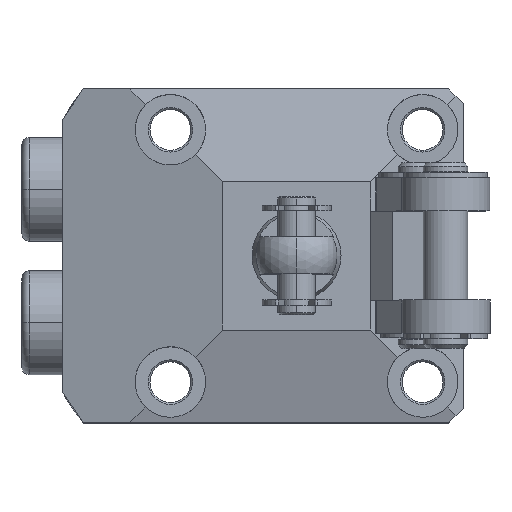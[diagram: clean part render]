
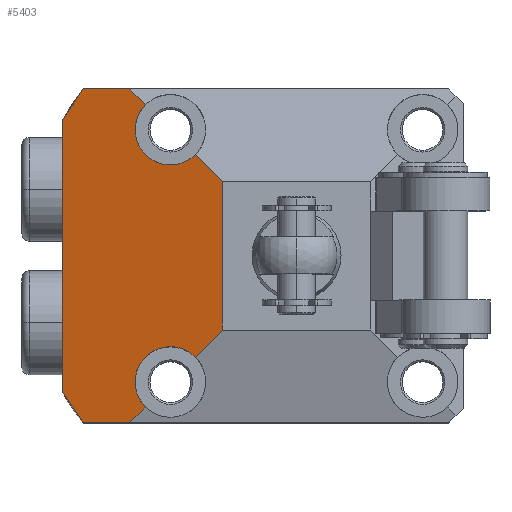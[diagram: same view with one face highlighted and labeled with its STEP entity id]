
A CAD part, top view. The second image highlights one B-rep face of the part: STEP entity #5403.
In plain terms, the highlighted planar face has unit normal (-0.259, 0, 0.966).
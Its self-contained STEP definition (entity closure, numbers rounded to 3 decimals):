
#83 =( BOUNDED_CURVE ( )  B_SPLINE_CURVE ( 3, ( #1738, #3707, #4362, #471 ),
 .UNSPECIFIED., .F., .F. ) 
 B_SPLINE_CURVE_WITH_KNOTS ( ( 4, 4 ),
 ( 0.785, 3.142 ),
 .UNSPECIFIED. ) 
 CURVE ( )  GEOMETRIC_REPRESENTATION_ITEM ( )  RATIONAL_B_SPLINE_CURVE ( ( 1., 0.588, 0.588, 1. ) ) 
 REPRESENTATION_ITEM ( '' )  );
#85 = CARTESIAN_POINT ( 'NONE',  ( -21.75, -12.028, 52.852 ) ) ;
#273 = CARTESIAN_POINT ( 'NONE',  ( -31.5, 22.501, 50.239 ) ) ;
#308 = DIRECTION ( 'NONE',  ( -0.966, 0., -0.259 ) ) ;
#336 = CARTESIAN_POINT ( 'NONE',  ( -20.359, 20.359, 53.224 ) ) ;
#437 = ORIENTED_EDGE ( 'NONE', *, *, #2420, .T. ) ;
#442 = VECTOR ( 'NONE', #3312, 1000. ) ;
#471 = CARTESIAN_POINT ( 'NONE',  ( -21.75, 17., 52.852 ) ) ;
#555 = VERTEX_POINT ( 'NONE', #3800 ) ;
#603 = VECTOR ( 'NONE', #2902, 1000. ) ;
#625 = VERTEX_POINT ( 'NONE', #6447 ) ;
#651 = LINE ( 'NONE', #273, #7120 ) ;
#654 = VERTEX_POINT ( 'NONE', #5197 ) ;
#694 = EDGE_CURVE ( 'NONE', #1173, #6821, #1224, .T. ) ;
#795 = EDGE_CURVE ( 'NONE', #2371, #1443, #5765, .T. ) ;
#814 = CARTESIAN_POINT ( 'NONE',  ( -21.75, 18.277, 52.852 ) ) ;
#1173 = VERTEX_POINT ( 'NONE', #2589 ) ;
#1183 = CARTESIAN_POINT ( 'NONE',  ( -28.74, 22.5, 50.979 ) ) ;
#1224 = LINE ( 'NONE', #1333, #442 ) ;
#1333 = CARTESIAN_POINT ( 'NONE',  ( -10., 22.5, 56. ) ) ;
#1353 = CARTESIAN_POINT ( 'NONE',  ( -20.359, -20.359, 53.224 ) ) ;
#1439 = CARTESIAN_POINT ( 'NONE',  ( -21.75, 17., 52.852 ) ) ;
#1443 = VERTEX_POINT ( 'NONE', #336 ) ;
#1521 = CARTESIAN_POINT ( 'NONE',  ( -10., -10., 56. ) ) ;
#1545 = ORIENTED_EDGE ( 'NONE', *, *, #1822, .T. ) ;
#1654 = ORIENTED_EDGE ( 'NONE', *, *, #795, .T. ) ;
#1700 = LINE ( 'NONE', #5907, #6457 ) ;
#1738 = CARTESIAN_POINT ( 'NONE',  ( -13.641, 13.641, 55.024 ) ) ;
#1822 = EDGE_CURVE ( 'NONE', #7681, #654, #2121, .T. ) ;
#1944 = CARTESIAN_POINT ( 'NONE',  ( -28.74, -22.5, 50.979 ) ) ;
#2023 = DIRECTION ( 'NONE',  ( -0.695, 0.695, -0.186 ) ) ;
#2025 = DIRECTION ( 'NONE',  ( -0.695, 0.695, -0.186 ) ) ;
#2034 = CARTESIAN_POINT ( 'NONE',  ( -17.157, -10.126, 54.082 ) ) ;
#2080 = CARTESIAN_POINT ( 'NONE',  ( -16.034, 16.034, 54.383 ) ) ;
#2121 =( BOUNDED_CURVE ( )  B_SPLINE_CURVE ( 3, ( #6494, #4608, #6544, #2667 ),
 .UNSPECIFIED., .F., .F. ) 
 B_SPLINE_CURVE_WITH_KNOTS ( ( 4, 4 ),
 ( 2.356, 3.142 ),
 .UNSPECIFIED. ) 
 CURVE ( )  GEOMETRIC_REPRESENTATION_ITEM ( )  RATIONAL_B_SPLINE_CURVE ( ( 1., 0.949, 0.949, 1. ) ) 
 REPRESENTATION_ITEM ( '' )  );
#2195 = ORIENTED_EDGE ( 'NONE', *, *, #6467, .T. ) ;
#2371 = VERTEX_POINT ( 'NONE', #3921 ) ;
#2420 = EDGE_CURVE ( 'NONE', #654, #555, #4521, .T. ) ;
#2461 = ORIENTED_EDGE ( 'NONE', *, *, #2633, .F. ) ;
#2470 = CARTESIAN_POINT ( 'NONE',  ( -31.5, 18.439, 50.239 ) ) ;
#2589 = CARTESIAN_POINT ( 'NONE',  ( -22.5, 22.5, 52.651 ) ) ;
#2596 = CARTESIAN_POINT ( 'NONE',  ( -30.672, -19.854, 50.461 ) ) ;
#2633 = EDGE_CURVE ( 'NONE', #5573, #7849, #7484, .T. ) ;
#2635 = DIRECTION ( 'NONE',  ( 0.695, 0.695, 0.186 ) ) ;
#2667 = CARTESIAN_POINT ( 'NONE',  ( -21.75, -17., 52.852 ) ) ;
#2844 =( BOUNDED_CURVE ( )  B_SPLINE_CURVE ( 3, ( #2470, #6359, #5098, #1183 ),
 .UNSPECIFIED., .F., .F. ) 
 B_SPLINE_CURVE_WITH_KNOTS ( ( 4, 4 ),
 ( 3.671, 3.806 ),
 .UNSPECIFIED. ) 
 CURVE ( )  GEOMETRIC_REPRESENTATION_ITEM ( )  RATIONAL_B_SPLINE_CURVE ( ( 1., 0.998, 0.998, 1. ) ) 
 REPRESENTATION_ITEM ( '' )  );
#2902 = DIRECTION ( 'NONE',  ( 0., -1., 0. ) ) ;
#2969 = DIRECTION ( 'NONE',  ( 0.695, 0.695, 0.186 ) ) ;
#3101 = VERTEX_POINT ( 'NONE', #5069 ) ;
#3245 = ORIENTED_EDGE ( 'NONE', *, *, #8233, .T. ) ;
#3260 = CARTESIAN_POINT ( 'NONE',  ( -10., -22.5, 56. ) ) ;
#3312 = DIRECTION ( 'NONE',  ( -0.966, 0., -0.259 ) ) ;
#3336 = VECTOR ( 'NONE', #2025, 1000. ) ;
#3547 = PLANE ( 'NONE',  #7048 ) ;
#3707 = CARTESIAN_POINT ( 'NONE',  ( -17.157, 10.126, 54.082 ) ) ;
#3800 = CARTESIAN_POINT ( 'NONE',  ( -13.641, -13.641, 55.024 ) ) ;
#3884 = DIRECTION ( 'NONE',  ( 0.966, 0., 0.259 ) ) ;
#3921 = CARTESIAN_POINT ( 'NONE',  ( -21.75, 17., 52.852 ) ) ;
#4109 = ORIENTED_EDGE ( 'NONE', *, *, #8058, .F. ) ;
#4190 = DIRECTION ( 'NONE',  ( 0.259, 0., -0.966 ) ) ;
#4362 = CARTESIAN_POINT ( 'NONE',  ( -21.75, 12.028, 52.852 ) ) ;
#4521 =( BOUNDED_CURVE ( )  B_SPLINE_CURVE ( 3, ( #4631, #85, #2034, #6565 ),
 .UNSPECIFIED., .F., .F. ) 
 B_SPLINE_CURVE_WITH_KNOTS ( ( 4, 4 ),
 ( 3.142, 5.498 ),
 .UNSPECIFIED. ) 
 CURVE ( )  GEOMETRIC_REPRESENTATION_ITEM ( )  RATIONAL_B_SPLINE_CURVE ( ( 1., 0.588, 0.588, 1. ) ) 
 REPRESENTATION_ITEM ( '' )  );
#4545 = EDGE_CURVE ( 'NONE', #4846, #2371, #83, .T. ) ;
#4608 = CARTESIAN_POINT ( 'NONE',  ( -21.261, -19.456, 52.983 ) ) ;
#4631 = CARTESIAN_POINT ( 'NONE',  ( -21.75, -17., 52.852 ) ) ;
#4743 = CARTESIAN_POINT ( 'NONE',  ( -10., 10., 56. ) ) ;
#4824 = CARTESIAN_POINT ( 'NONE',  ( -10., 22.501, 56. ) ) ;
#4843 = LINE ( 'NONE', #3260, #7848 ) ;
#4846 = VERTEX_POINT ( 'NONE', #7946 ) ;
#4860 = VECTOR ( 'NONE', #2969, 1000. ) ;
#5009 = CARTESIAN_POINT ( 'NONE',  ( -28.74, 22.5, 50.979 ) ) ;
#5069 = CARTESIAN_POINT ( 'NONE',  ( -28.74, -22.5, 50.979 ) ) ;
#5079 = LINE ( 'NONE', #2080, #3336 ) ;
#5098 = CARTESIAN_POINT ( 'NONE',  ( -29.751, 21.209, 50.708 ) ) ;
#5142 = EDGE_CURVE ( 'NONE', #3101, #625, #7863, .T. ) ;
#5197 = CARTESIAN_POINT ( 'NONE',  ( -21.75, -17., 52.852 ) ) ;
#5289 = EDGE_CURVE ( 'NONE', #1443, #1173, #5079, .T. ) ;
#5360 = CARTESIAN_POINT ( 'NONE',  ( -21.261, 19.456, 52.983 ) ) ;
#5403 = ADVANCED_FACE ( 'NONE', ( #7688 ), #3547, .F. ) ;
#5458 = DIRECTION ( 'NONE',  ( 0., -1., 0. ) ) ;
#5573 = VERTEX_POINT ( 'NONE', #4743 ) ;
#5680 = CARTESIAN_POINT ( 'NONE',  ( -22.5, -22.5, 52.651 ) ) ;
#5765 =( BOUNDED_CURVE ( )  B_SPLINE_CURVE ( 3, ( #1439, #814, #5360, #5998 ),
 .UNSPECIFIED., .F., .F. ) 
 B_SPLINE_CURVE_WITH_KNOTS ( ( 4, 4 ),
 ( 3.142, 3.927 ),
 .UNSPECIFIED. ) 
 CURVE ( )  GEOMETRIC_REPRESENTATION_ITEM ( )  RATIONAL_B_SPLINE_CURVE ( ( 1., 0.949, 0.949, 1. ) ) 
 REPRESENTATION_ITEM ( '' )  );
#5907 = CARTESIAN_POINT ( 'NONE',  ( -16.034, 16.034, 54.383 ) ) ;
#5955 = EDGE_CURVE ( 'NONE', #5573, #4846, #1700, .T. ) ;
#5998 = CARTESIAN_POINT ( 'NONE',  ( -20.359, 20.359, 53.224 ) ) ;
#6179 = EDGE_CURVE ( 'NONE', #555, #7849, #6954, .T. ) ;
#6192 = ORIENTED_EDGE ( 'NONE', *, *, #7016, .T. ) ;
#6359 = CARTESIAN_POINT ( 'NONE',  ( -30.672, 19.854, 50.461 ) ) ;
#6447 = CARTESIAN_POINT ( 'NONE',  ( -31.5, -18.439, 50.239 ) ) ;
#6457 = VECTOR ( 'NONE', #2023, 1000. ) ;
#6467 = EDGE_CURVE ( 'NONE', #6859, #7681, #6744, .T. ) ;
#6494 = CARTESIAN_POINT ( 'NONE',  ( -20.359, -20.359, 53.224 ) ) ;
#6514 = CARTESIAN_POINT ( 'NONE',  ( 5.687, 5.687, 60.203 ) ) ;
#6544 = CARTESIAN_POINT ( 'NONE',  ( -21.75, -18.277, 52.852 ) ) ;
#6565 = CARTESIAN_POINT ( 'NONE',  ( -13.641, -13.641, 55.024 ) ) ;
#6731 = CARTESIAN_POINT ( 'NONE',  ( -10., 22.501, 56. ) ) ;
#6744 = LINE ( 'NONE', #6514, #8278 ) ;
#6821 = VERTEX_POINT ( 'NONE', #5009 ) ;
#6859 = VERTEX_POINT ( 'NONE', #5680 ) ;
#6879 = ORIENTED_EDGE ( 'NONE', *, *, #4545, .T. ) ;
#6954 = LINE ( 'NONE', #8118, #4860 ) ;
#7016 = EDGE_CURVE ( 'NONE', #3101, #6859, #4843, .T. ) ;
#7048 = AXIS2_PLACEMENT_3D ( 'NONE', #4824, #4190, #308 ) ;
#7091 = CARTESIAN_POINT ( 'NONE',  ( -29.751, -21.209, 50.708 ) ) ;
#7118 = CARTESIAN_POINT ( 'NONE',  ( -31.5, -18.439, 50.239 ) ) ;
#7120 = VECTOR ( 'NONE', #5458, 1000. ) ;
#7240 = VERTEX_POINT ( 'NONE', #7346 ) ;
#7346 = CARTESIAN_POINT ( 'NONE',  ( -31.5, 18.439, 50.239 ) ) ;
#7468 = ORIENTED_EDGE ( 'NONE', *, *, #6179, .T. ) ;
#7484 = LINE ( 'NONE', #6731, #603 ) ;
#7500 = ORIENTED_EDGE ( 'NONE', *, *, #5142, .F. ) ;
#7681 = VERTEX_POINT ( 'NONE', #1353 ) ;
#7688 = FACE_OUTER_BOUND ( 'NONE', #7773, .T. ) ;
#7773 = EDGE_LOOP ( 'NONE', ( #6192, #2195, #1545, #437, #7468, #2461, #8265, #6879, #1654, #7872, #8218, #4109, #3245, #7500 ) ) ;
#7848 = VECTOR ( 'NONE', #3884, 1000. ) ;
#7849 = VERTEX_POINT ( 'NONE', #1521 ) ;
#7863 =( BOUNDED_CURVE ( )  B_SPLINE_CURVE ( 3, ( #1944, #7091, #2596, #7118 ),
 .UNSPECIFIED., .F., .F. ) 
 B_SPLINE_CURVE_WITH_KNOTS ( ( 4, 4 ),
 ( 2.477, 2.612 ),
 .UNSPECIFIED. ) 
 CURVE ( )  GEOMETRIC_REPRESENTATION_ITEM ( )  RATIONAL_B_SPLINE_CURVE ( ( 1., 0.998, 0.998, 1. ) ) 
 REPRESENTATION_ITEM ( '' )  );
#7872 = ORIENTED_EDGE ( 'NONE', *, *, #5289, .T. ) ;
#7946 = CARTESIAN_POINT ( 'NONE',  ( -13.641, 13.641, 55.024 ) ) ;
#8058 = EDGE_CURVE ( 'NONE', #7240, #6821, #2844, .T. ) ;
#8118 = CARTESIAN_POINT ( 'NONE',  ( 5.687, 5.687, 60.203 ) ) ;
#8218 = ORIENTED_EDGE ( 'NONE', *, *, #694, .T. ) ;
#8233 = EDGE_CURVE ( 'NONE', #7240, #625, #651, .T. ) ;
#8265 = ORIENTED_EDGE ( 'NONE', *, *, #5955, .T. ) ;
#8278 = VECTOR ( 'NONE', #2635, 1000. ) ;
